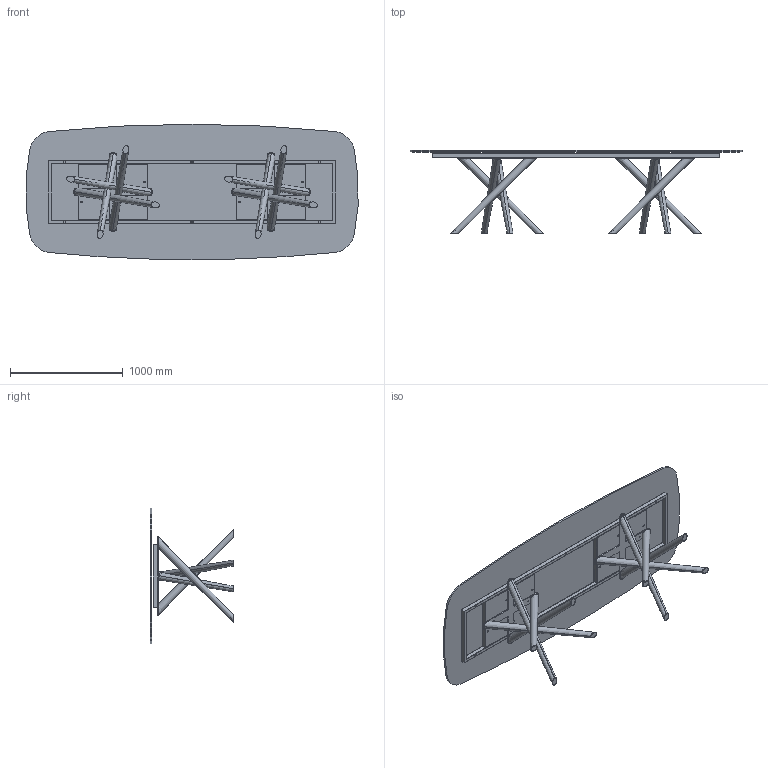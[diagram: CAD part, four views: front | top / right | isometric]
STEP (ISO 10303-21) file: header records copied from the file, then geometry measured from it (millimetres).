
FILE_DESCRIPTION (( 'STEP AP203' ), '1' );
FILE_NAME ('BA50G.STEP', '2024-08-08T06:10:42', ( '' ), ( '' ), 'SwSTEP 2.0', 'SolidWorks 2022', '' );
FILE_SCHEMA (( 'CONFIG_CONTROL_DESIGN' ));
Length unit declared in the file: millimetre
Products named in the file (9): BA50G; TTAV03_02-06-VASSOIO IRRIGIDIMENTO TELAIO UNIVERSALE RETTANGOLARE; BAB000000_01-00-Croce Superiore baly; BAB000000_02-00-basamento pali conificati; Parte5^BAB000000-00-BALY BASE GREZZA; TTAV03-06-TELAIO UNIVERSALE X TAVOLI 300-340cm; C4XCRXX-00-Piani Sagomati in Cristallo_2950x1200; TTAV03_01-06-RING TUBO TELAIO UNIVERSALE X TAVOLI 300-340cm; BAB000000-00-BALY BASE GREZZA
Assembly tree (10 placements, depth 3):
  BA50G
    C4XCRXX-00-Piani Sagomati in Cristallo_2950x1200
    TTAV03-06-TELAIO UNIVERSALE X TAVOLI 300-340cm
      TTAV03_01-06-RING TUBO TELAIO UNIVERSALE X TAVOLI 300-340cm
      TTAV03_02-06-VASSOIO IRRIGIDIMENTO TELAIO UNIVERSALE RETTANGOLARE  x2
    BAB000000-00-BALY BASE GREZZA  x2
      BAB000000_01-00-Croce Superiore baly
      BAB000000_02-00-basamento pali conificati
      Parte5^BAB000000-00-BALY BASE GREZZA
Bounding box: 2941.59 x 740 x 1200 mm (x, y, z)
Volume: 58925122.1 mm3; surface area: 13112940.8 mm2
Topology: 22 solids, 22 shells, 561 faces, 1377 edges, 854 vertices
Faces by surface type: plane 270, cylinder 203, cone 64, bspline 16, sphere 8
Entity records: 12695 total; most frequent: CARTESIAN_POINT 3449, DIRECTION 1726, ORIENTED_EDGE 1688, EDGE_CURVE 844, AXIS2_PLACEMENT_3D 605, VERTEX_POINT 528, LINE 516, VECTOR 516
